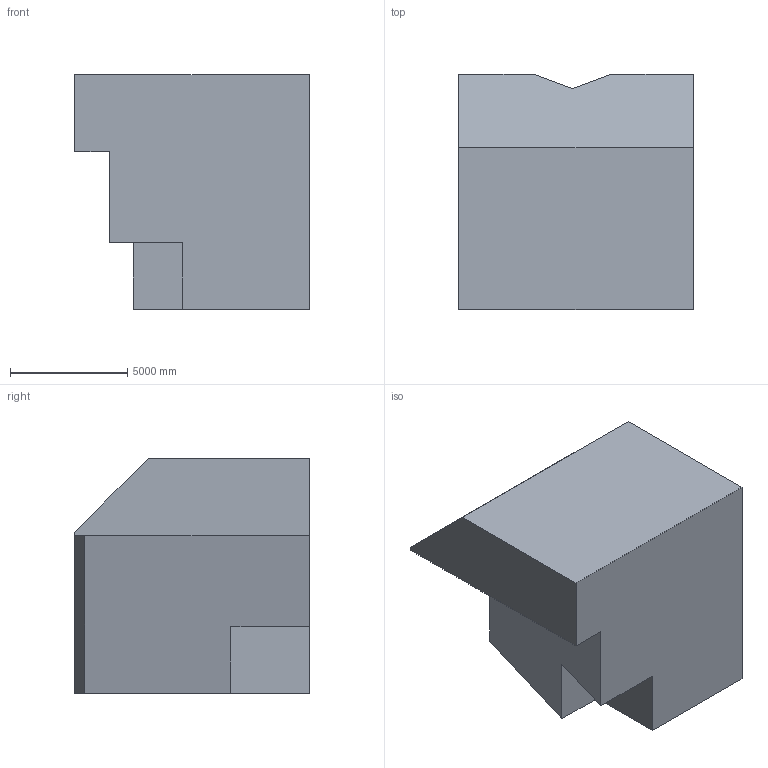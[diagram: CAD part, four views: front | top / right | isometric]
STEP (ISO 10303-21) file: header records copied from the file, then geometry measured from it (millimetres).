
FILE_DESCRIPTION (( 'STEP AP203' ), '1' );
FILE_NAME ('336.STEP', '2022-07-28T14:23:26', ( 'user' ), ( '' ), 'SwSTEP 2.0', 'SolidWorks 2021', '' );
FILE_SCHEMA (( 'CONFIG_CONTROL_DESIGN' ));
Length unit declared in the file: centimetre
Products named in the file (1): 336
Bounding box: 10000 x 10000 x 10000 mm (x, y, z)
Volume: 719446778305.2 mm3; surface area: 528741557.7 mm2
Topology: 1 solids, 1 shells, 15 faces, 39 edges, 26 vertices
Faces by surface type: plane 15
Entity records: 530 total; most frequent: CARTESIAN_POINT 81, ORIENTED_EDGE 78, DIRECTION 71, EDGE_CURVE 39, VECTOR 39, LINE 39, VERTEX_POINT 26, AXIS2_PLACEMENT_3D 16
